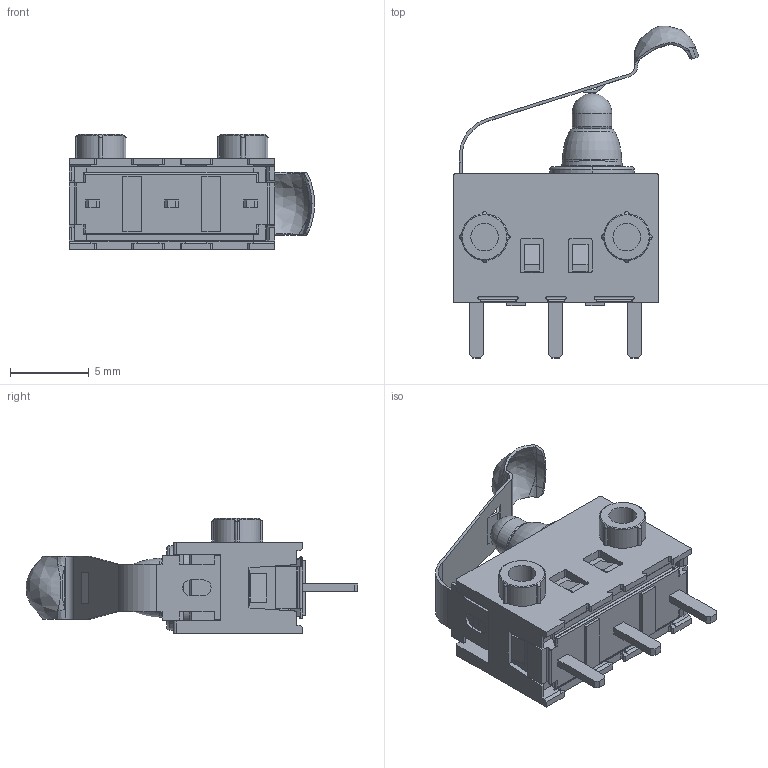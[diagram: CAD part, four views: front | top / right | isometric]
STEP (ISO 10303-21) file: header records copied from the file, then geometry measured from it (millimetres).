
FILE_DESCRIPTION (( 'STEP AP214' ), '1' );
FILE_NAME ('SPVQ371100.STEP', '2011-03-22T04:10:07', ( '' ), ( '' ), 'SwSTEP 2.0', 'SolidWorks 2007', '' );
FILE_SCHEMA (( 'AUTOMOTIVE_DESIGN' ));
Length unit declared in the file: millimetre
Products named in the file (1): SPVQ371100
Bounding box: 15.54 x 21.02 x 7.3 mm (x, y, z)
Volume: 637 mm3; surface area: 1244.7 mm2
Topology: 1 solids, 1 shells, 476 faces, 1357 edges, 882 vertices
Faces by surface type: plane 292, cylinder 144, bspline 16, torus 14, cone 8, sphere 2
Entity records: 21480 total; most frequent: CARTESIAN_POINT 3777, ORIENTED_EDGE 2706, DIRECTION 2486, EDGE_CURVE 1353, VECTOR 956, LINE 956, VERTEX_POINT 880, AXIS2_PLACEMENT_3D 765
